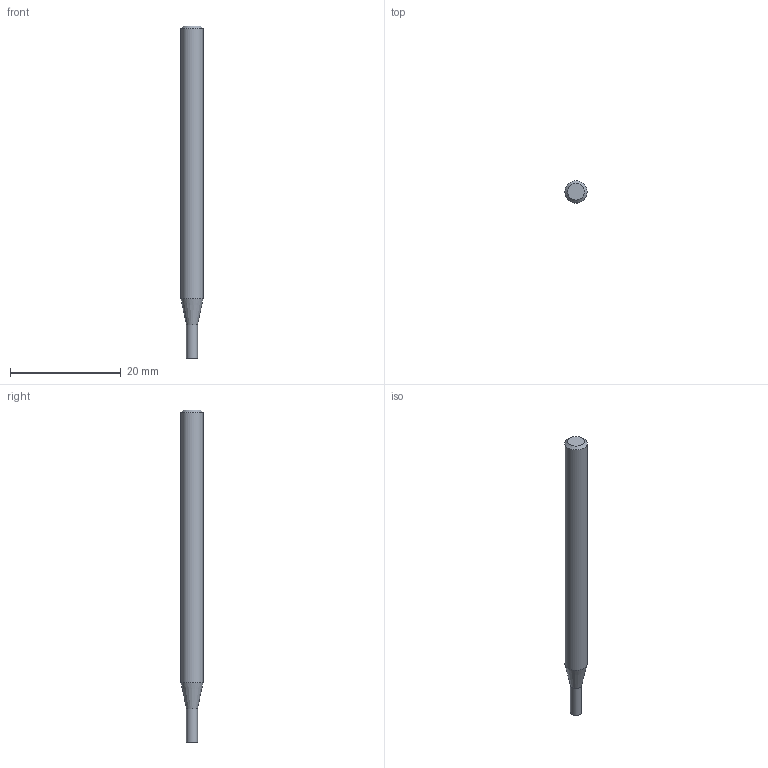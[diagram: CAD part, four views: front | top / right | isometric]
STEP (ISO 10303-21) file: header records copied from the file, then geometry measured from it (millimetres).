
FILE_DESCRIPTION((''),'2;1');
FILE_NAME('C:\Users\nsx150\AppData\Local\Temp\Mastercam 2021\W9Z147XDNF\TEMP.step','2021-04-08T14:45:44',(''),(''),'STEP Write','Mastercam 2021 ... CNC Software, Inc.','');
FILE_SCHEMA(('AUTOMOTIVE_DESIGN'));
Length unit declared in the file: millimetre
Products named in the file (1): None
Bounding box: 4 x 4 x 60 mm (x, y, z)
Volume: 671.4 mm3; surface area: 720.5 mm2
Topology: 2 solids, 2 shells, 8 faces, 10 edges, 6 vertices
Faces by surface type: plane 4, cylinder 2, cone 2
Full cylindrical faces by diameter (mm): 2 x1, 4 x1
Entity records: 190 total; most frequent: DIRECTION 32, CARTESIAN_POINT 22, AXIS2_PLACEMENT_3D 16, ORIENTED_EDGE 12, EDGE_LOOP 12, STYLED_ITEM 11, ADVANCED_FACE 8, VERTEX_POINT 6
